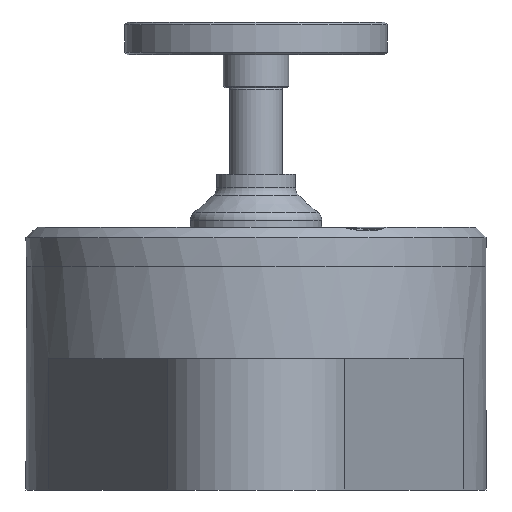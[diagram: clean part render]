
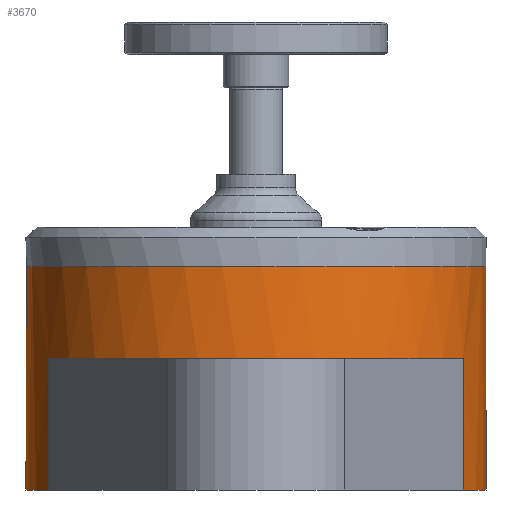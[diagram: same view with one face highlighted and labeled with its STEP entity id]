
A CAD part, left-side view. The second image highlights one B-rep face of the part: STEP entity #3670.
In plain terms, the highlighted cylindrical face has radius 17.5 mm (diameter 35 mm), a full revolution.
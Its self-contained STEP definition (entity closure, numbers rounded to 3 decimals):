
#510=FACE_OUTER_BOUND('',#759,.T.);
#759=EDGE_LOOP('',(#2868,#2869,#2870,#2871,#2872,#2873,#2874,#2875,#2876,
#2877,#2878,#2879,#2880));
#992=LINE('',#9839,#1184);
#994=LINE('',#9849,#1186);
#995=LINE('',#9850,#1187);
#996=LINE('',#9853,#1188);
#997=LINE('',#9855,#1189);
#1184=VECTOR('',#4670,10.);
#1186=VECTOR('',#4680,17.5);
#1187=VECTOR('',#4681,10.);
#1188=VECTOR('',#4684,10.);
#1189=VECTOR('',#4685,10.);
#1334=CIRCLE('',#3988,17.5);
#1336=CIRCLE('',#3990,17.5);
#1339=CIRCLE('',#3995,17.5);
#1340=CIRCLE('',#3996,17.5);
#1341=CIRCLE('',#3997,17.5);
#1342=CIRCLE('',#3998,17.5);
#1343=CIRCLE('',#3999,17.5);
#1649=VERTEX_POINT('',#9818);
#1650=VERTEX_POINT('',#9820);
#1653=VERTEX_POINT('',#9826);
#1654=VERTEX_POINT('',#9828);
#1658=VERTEX_POINT('',#9837);
#1659=VERTEX_POINT('',#9842);
#1660=VERTEX_POINT('',#9843);
#1661=VERTEX_POINT('',#9845);
#1662=VERTEX_POINT('',#9848);
#1663=VERTEX_POINT('',#9851);
#1664=VERTEX_POINT('',#9854);
#2091=EDGE_CURVE('',#1650,#1649,#1334,.T.);
#2095=EDGE_CURVE('',#1654,#1653,#1336,.T.);
#2100=EDGE_CURVE('',#1653,#1658,#992,.T.);
#2102=EDGE_CURVE('',#1659,#1660,#1339,.T.);
#2103=EDGE_CURVE('',#1661,#1659,#1340,.T.);
#2104=EDGE_CURVE('',#1660,#1661,#1341,.T.);
#2105=EDGE_CURVE('',#1660,#1662,#994,.T.);
#2106=EDGE_CURVE('',#1654,#1662,#995,.T.);
#2107=EDGE_CURVE('',#1658,#1663,#1342,.T.);
#2108=EDGE_CURVE('',#1650,#1663,#996,.T.);
#2109=EDGE_CURVE('',#1649,#1664,#997,.T.);
#2110=EDGE_CURVE('',#1664,#1662,#1343,.T.);
#2868=ORIENTED_EDGE('',*,*,#2102,.F.);
#2869=ORIENTED_EDGE('',*,*,#2103,.F.);
#2870=ORIENTED_EDGE('',*,*,#2104,.F.);
#2871=ORIENTED_EDGE('',*,*,#2105,.T.);
#2872=ORIENTED_EDGE('',*,*,#2106,.F.);
#2873=ORIENTED_EDGE('',*,*,#2095,.T.);
#2874=ORIENTED_EDGE('',*,*,#2100,.T.);
#2875=ORIENTED_EDGE('',*,*,#2107,.T.);
#2876=ORIENTED_EDGE('',*,*,#2108,.F.);
#2877=ORIENTED_EDGE('',*,*,#2091,.T.);
#2878=ORIENTED_EDGE('',*,*,#2109,.T.);
#2879=ORIENTED_EDGE('',*,*,#2110,.T.);
#2880=ORIENTED_EDGE('',*,*,#2105,.F.);
#3529=CYLINDRICAL_SURFACE('',#3994,17.5);
#3670=ADVANCED_FACE('',(#510),#3529,.T.);
#3988=AXIS2_PLACEMENT_3D('',#9821,#4654,#4655);
#3990=AXIS2_PLACEMENT_3D('',#9829,#4660,#4661);
#3994=AXIS2_PLACEMENT_3D('',#9841,#4672,#4673);
#3995=AXIS2_PLACEMENT_3D('',#9844,#4674,#4675);
#3996=AXIS2_PLACEMENT_3D('',#9846,#4676,#4677);
#3997=AXIS2_PLACEMENT_3D('',#9847,#4678,#4679);
#3998=AXIS2_PLACEMENT_3D('',#9852,#4682,#4683);
#3999=AXIS2_PLACEMENT_3D('',#9856,#4686,#4687);
#4654=DIRECTION('center_axis',(0.,0.,1.));
#4655=DIRECTION('ref_axis',(-0.435,-0.901,0.));
#4660=DIRECTION('center_axis',(0.,0.,1.));
#4661=DIRECTION('ref_axis',(0.435,0.901,0.));
#4670=DIRECTION('',(0.,0.,1.));
#4672=DIRECTION('center_axis',(0.,0.,1.));
#4673=DIRECTION('ref_axis',(-0.435,-0.901,0.));
#4674=DIRECTION('center_axis',(0.,0.,1.));
#4675=DIRECTION('ref_axis',(0.5,0.866,0.));
#4676=DIRECTION('center_axis',(0.,0.,1.));
#4677=DIRECTION('ref_axis',(0.5,0.866,0.));
#4678=DIRECTION('center_axis',(0.,0.,1.));
#4679=DIRECTION('ref_axis',(0.5,0.866,0.));
#4680=DIRECTION('',(0.,0.,-1.));
#4681=DIRECTION('',(0.,0.,1.));
#4682=DIRECTION('center_axis',(0.,0.,1.));
#4683=DIRECTION('ref_axis',(-1.,0.,0.));
#4684=DIRECTION('',(0.,0.,1.));
#4685=DIRECTION('',(0.,0.,1.));
#4686=DIRECTION('center_axis',(0.,0.,1.));
#4687=DIRECTION('ref_axis',(-1.,0.,0.));
#9818=CARTESIAN_POINT('',(7.609,-15.759,0.));
#9820=CARTESIAN_POINT('',(-7.609,-15.759,0.));
#9821=CARTESIAN_POINT('Origin',(0.,0.,0.));
#9826=CARTESIAN_POINT('',(-7.609,15.759,0.));
#9828=CARTESIAN_POINT('',(7.609,15.759,0.));
#9829=CARTESIAN_POINT('Origin',(0.,0.,0.));
#9837=CARTESIAN_POINT('',(-7.609,15.759,10.));
#9839=CARTESIAN_POINT('',(-7.609,15.759,0.));
#9841=CARTESIAN_POINT('Origin',(0.,0.,0.));
#9842=CARTESIAN_POINT('',(7.609,-15.759,17.));
#9843=CARTESIAN_POINT('',(7.609,15.759,17.));
#9844=CARTESIAN_POINT('Origin',(0.,0.,
17.));
#9845=CARTESIAN_POINT('',(-8.75,-15.155,17.));
#9846=CARTESIAN_POINT('Origin',(0.,0.,
17.));
#9847=CARTESIAN_POINT('Origin',(0.,0.,
17.));
#9848=CARTESIAN_POINT('',(7.609,15.759,10.));
#9849=CARTESIAN_POINT('',(7.609,15.759,0.));
#9850=CARTESIAN_POINT('',(7.609,15.759,0.));
#9851=CARTESIAN_POINT('',(-7.609,-15.759,10.));
#9852=CARTESIAN_POINT('Origin',(0.,0.,
10.));
#9853=CARTESIAN_POINT('',(-7.609,-15.759,0.));
#9854=CARTESIAN_POINT('',(7.609,-15.759,10.));
#9855=CARTESIAN_POINT('',(7.609,-15.759,0.));
#9856=CARTESIAN_POINT('Origin',(0.,0.,
10.));
